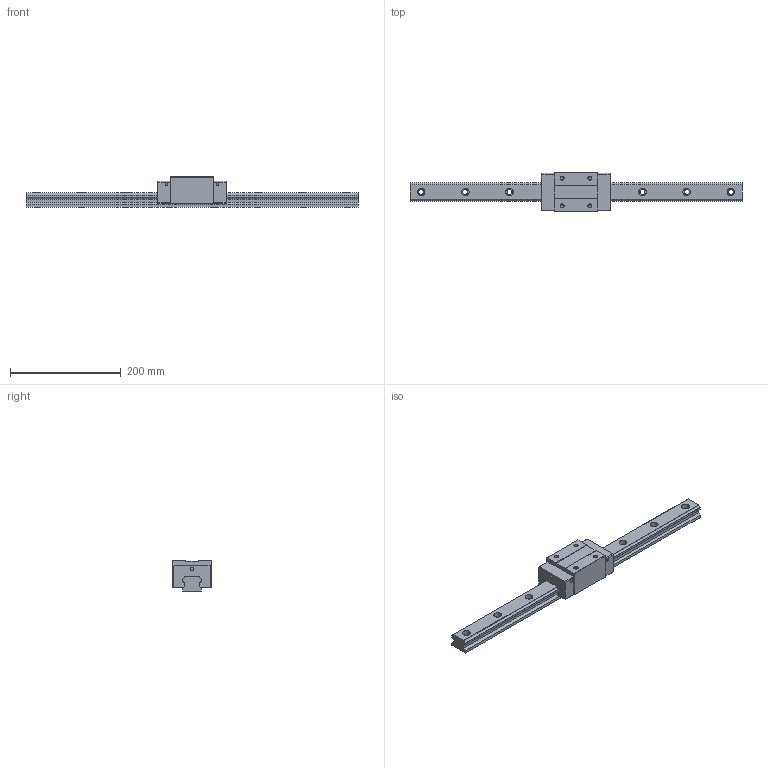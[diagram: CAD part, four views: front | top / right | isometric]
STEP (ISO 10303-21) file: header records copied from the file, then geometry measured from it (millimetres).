
FILE_DESCRIPTION (( 'STEP AP203' ), '1' );
FILE_NAME ('TRH35VN-SZ.STEP', '2024-07-10T02:38:59', ( '' ), ( '' ), 'SwSTEP 2.0', 'SolidWorks 2022', '' );
FILE_SCHEMA (( 'CONFIG_CONTROL_DESIGN' ));
Length unit declared in the file: millimetre
Products named in the file (1): TRH35VN-SZ
Bounding box: 600 x 70 x 55 mm (x, y, z)
Volume: 758482.4 mm3; surface area: 122732 mm2
Topology: 2 solids, 2 shells, 186 faces, 488 edges, 316 vertices
Faces by surface type: cylinder 88, plane 82, cone 16
Entity records: 5819 total; most frequent: DIRECTION 1038, CARTESIAN_POINT 983, ORIENTED_EDGE 960, EDGE_CURVE 480, AXIS2_PLACEMENT_3D 371, VERTEX_POINT 316, VECTOR 296, LINE 296
